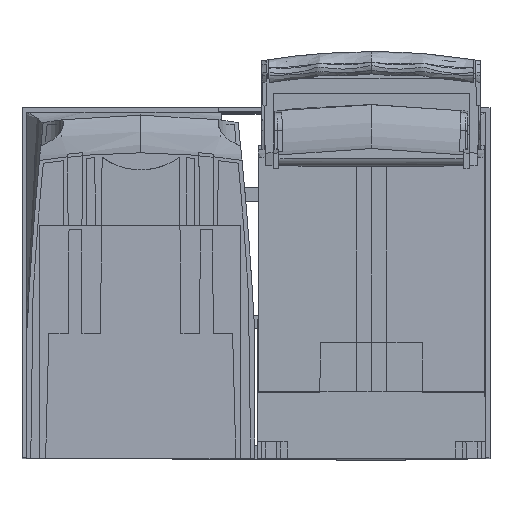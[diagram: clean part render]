
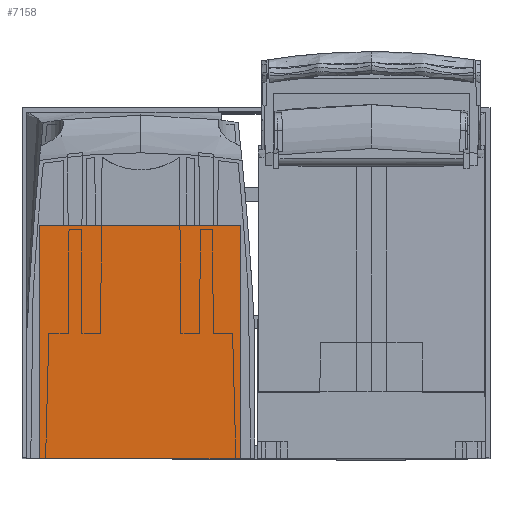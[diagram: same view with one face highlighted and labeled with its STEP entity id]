
A CAD part, left-side view. The second image highlights one B-rep face of the part: STEP entity #7158.
In plain terms, the highlighted planar face has unit normal (-1, 0, 0.004).
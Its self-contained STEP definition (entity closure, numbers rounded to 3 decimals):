
#7158=ADVANCED_FACE('',(#9892),#8403,.T.);
#8403=PLANE('',#38536);
#9892=FACE_OUTER_BOUND('',#11751,.T.);
#11751=EDGE_LOOP('',(#20553,#20554,#20555,#20556));
#20553=ORIENTED_EDGE('',*,*,#29848,.T.);
#20554=ORIENTED_EDGE('',*,*,#29851,.T.);
#20555=ORIENTED_EDGE('',*,*,#29854,.T.);
#20556=ORIENTED_EDGE('',*,*,#29862,.T.);
#25073=VERTEX_POINT('',#162802);
#25074=VERTEX_POINT('',#162803);
#25075=VERTEX_POINT('',#162808);
#25077=VERTEX_POINT('',#162814);
#29848=EDGE_CURVE('',#25073,#25074,#33401,.T.);
#29851=EDGE_CURVE('',#25074,#25075,#33404,.T.);
#29854=EDGE_CURVE('',#25075,#25077,#33407,.T.);
#29862=EDGE_CURVE('',#25077,#25073,#33415,.T.);
#33401=LINE('',#162801,#36596);
#33404=LINE('',#162807,#36599);
#33407=LINE('',#162813,#36602);
#33415=LINE('',#162828,#36610);
#36596=VECTOR('',#44911,1.);
#36599=VECTOR('',#44916,1.);
#36602=VECTOR('',#44921,1.);
#36610=VECTOR('',#44931,1.);
#38536=AXIS2_PLACEMENT_3D('',#162831,#44935,#44936);
#44911=DIRECTION('',(0.,-1.,0.));
#44916=DIRECTION('',(0.003,0.,1.));
#44921=DIRECTION('',(0.,1.,0.));
#44931=DIRECTION('',(-0.003,0.,-1.));
#44935=DIRECTION('',(-1.,0.,0.003));
#44936=DIRECTION('',(0.003,0.,1.));
#162801=CARTESIAN_POINT('',(249.799,143.902,-0.192));
#162802=CARTESIAN_POINT('',(249.799,143.902,-0.192));
#162803=CARTESIAN_POINT('',(249.799,56.902,-0.192));
#162807=CARTESIAN_POINT('',(249.799,56.902,-0.192));
#162808=CARTESIAN_POINT('',(250.152,56.902,100.807));
#162813=CARTESIAN_POINT('',(250.152,56.902,100.807));
#162814=CARTESIAN_POINT('',(250.152,143.902,100.807));
#162828=CARTESIAN_POINT('',(250.152,143.902,100.807));
#162831=CARTESIAN_POINT('',(249.797,0.,-0.872));
